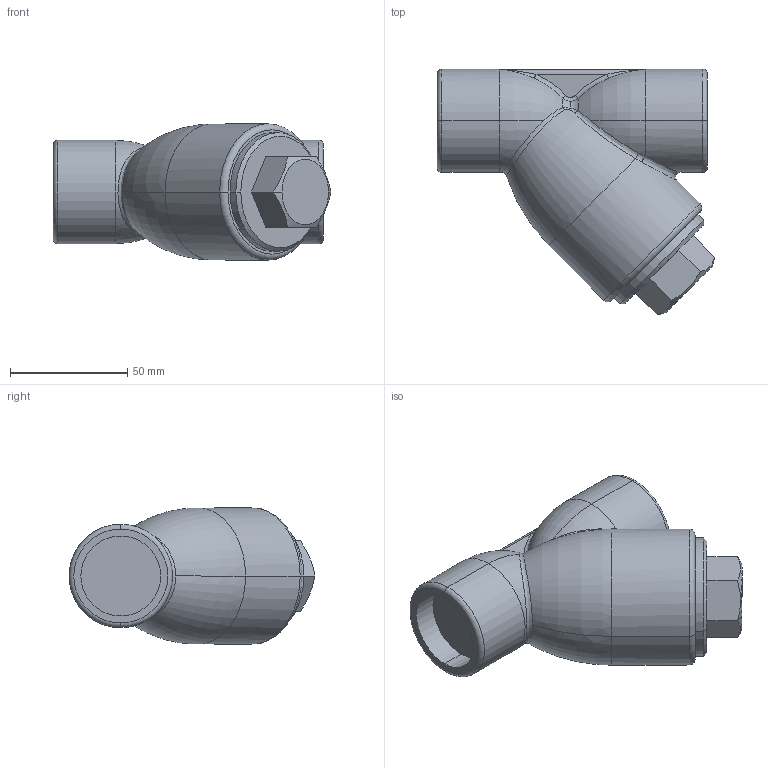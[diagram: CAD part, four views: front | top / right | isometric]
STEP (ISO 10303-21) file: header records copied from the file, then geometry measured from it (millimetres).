
FILE_DESCRIPTION (( 'STEP AP203' ), '1' );
FILE_NAME ('SY-17 25A.STEP', '2025-10-02T00:47:44', ( '' ), ( '' ), 'SwSTEP 2.0', 'SolidWorks 2024', '' );
FILE_SCHEMA (( 'CONFIG_CONTROL_DESIGN' ));
Length unit declared in the file: millimetre
Products named in the file (1): SY-17 25A
Bounding box: 118.16 x 104.66 x 58 mm (x, y, z)
Volume: 302262.2 mm3; surface area: 32716 mm2
Topology: 1 solids, 1 shells, 69 faces, 158 edges, 91 vertices
Faces by surface type: torus 19, bspline 18, plane 15, cylinder 13, cone 4
Entity records: 3553 total; most frequent: CARTESIAN_POINT 2069, ORIENTED_EDGE 308, DIRECTION 276, EDGE_CURVE 154, AXIS2_PLACEMENT_3D 122, VERTEX_POINT 91, EDGE_LOOP 73, CIRCLE 70
